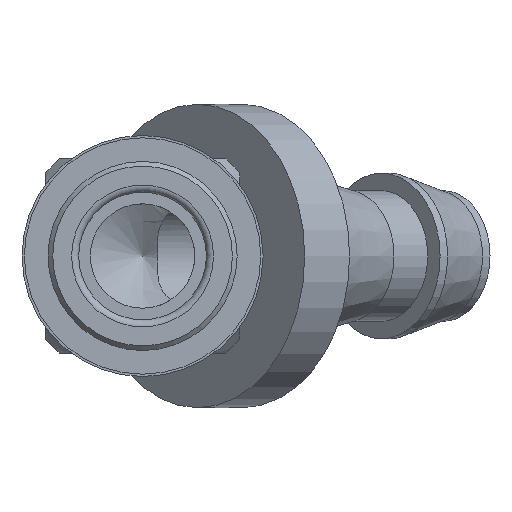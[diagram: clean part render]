
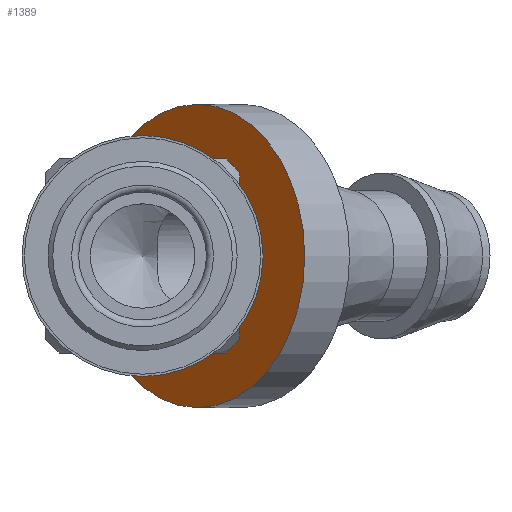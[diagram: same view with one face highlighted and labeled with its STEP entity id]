
A CAD part, left-side view. The second image highlights one B-rep face of the part: STEP entity #1389.
In plain terms, the highlighted planar face has unit normal (-0.707, 0.707, 0).
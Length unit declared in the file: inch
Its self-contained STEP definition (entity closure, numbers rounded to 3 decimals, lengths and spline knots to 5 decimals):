
#227=PLANE('',#1575);
#539=ORIENTED_EDGE('',*,*,#780,.F.);
#540=ORIENTED_EDGE('',*,*,#779,.T.);
#779=EDGE_CURVE('',#919,#919,#1013,.T.);
#780=EDGE_CURVE('',#920,#920,#1014,.T.);
#919=VERTEX_POINT('',#2449);
#920=VERTEX_POINT('',#2452);
#1013=CIRCLE('',#1574,0.185);
#1014=CIRCLE('',#1576,0.43);
#1122=EDGE_LOOP('',(#539));
#1123=EDGE_LOOP('',(#540));
#1260=FACE_BOUND('',#1122,.T.);
#1261=FACE_BOUND('',#1123,.T.);
#1389=ADVANCED_FACE('',(#1260,#1261),#227,.F.);
#1574=AXIS2_PLACEMENT_3D('',#2448,#1966,#1967);
#1575=AXIS2_PLACEMENT_3D('',#2450,#1968,#1969);
#1576=AXIS2_PLACEMENT_3D('',#2451,#1970,#1971);
#1966=DIRECTION('',(0.707,-0.707,0.));
#1967=DIRECTION('',(0.707,0.707,0.));
#1968=DIRECTION('',(0.707,-0.707,0.));
#1969=DIRECTION('',(0.707,0.707,0.));
#1970=DIRECTION('',(0.707,-0.707,0.));
#1971=DIRECTION('',(0.707,0.707,0.));
#2448=CARTESIAN_POINT('',(1.62582,-0.15542,0.));
#2449=CARTESIAN_POINT('',(1.75664,-0.02461,0.));
#2450=CARTESIAN_POINT('',(1.75664,-0.02461,0.));
#2451=CARTESIAN_POINT('',(1.62582,-0.15542,0.));
#2452=CARTESIAN_POINT('',(1.92988,0.14863,0.));
